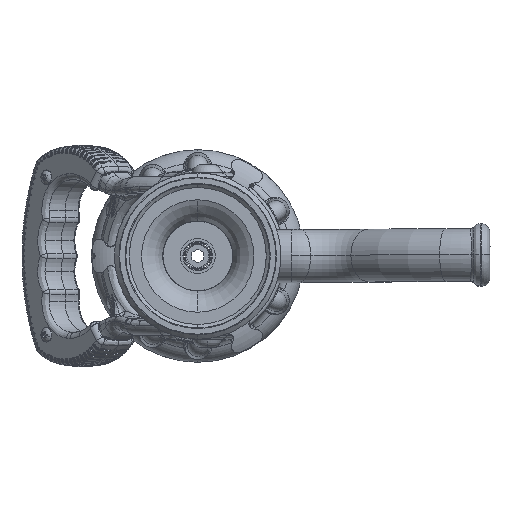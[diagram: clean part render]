
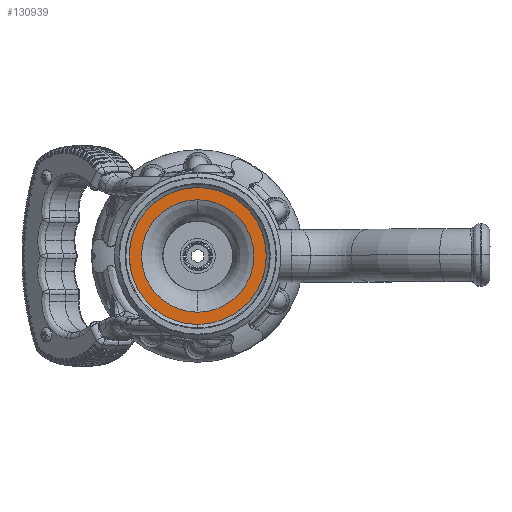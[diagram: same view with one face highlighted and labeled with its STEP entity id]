
A CAD part, left-side view. The second image highlights one B-rep face of the part: STEP entity #130939.
In plain terms, the highlighted planar face has unit normal (-1, 0, 0).
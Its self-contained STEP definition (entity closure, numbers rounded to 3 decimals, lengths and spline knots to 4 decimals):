
#19301 = AXIS2_PLACEMENT_3D ( 'NONE', #104482, #104483, #104485 ) ;
#19303 = AXIS2_PLACEMENT_3D ( 'NONE', #104500, #104502, #104503 ) ;
#19310 = AXIS2_PLACEMENT_3D ( 'NONE', #104559, #104561, #104563 ) ;
#19311 = AXIS2_PLACEMENT_3D ( 'NONE', #104567, #104569, #104571 ) ;
#26433 = FACE_BOUND ( 'NONE', #39855, .T. ) ;
#26483 = FACE_OUTER_BOUND ( 'NONE', #39869, .T. ) ;
#32079 = CARTESIAN_POINT ( 'NONE',  ( -11.37, -1.625, 0. ) ) ;
#32086 = PLANE ( 'NONE',  #48386 ) ;
#32090 = DIRECTION ( 'NONE',  ( -1., 0., 0. ) ) ;
#32092 = DIRECTION ( 'NONE',  ( 0., 0., 1. ) ) ;
#39372 = VERTEX_POINT ( 'NONE', #66721 ) ;
#39402 = VERTEX_POINT ( 'NONE', #66751 ) ;
#39416 = VERTEX_POINT ( 'NONE', #66765 ) ;
#39418 = VERTEX_POINT ( 'NONE', #66767 ) ;
#39855 = EDGE_LOOP ( 'NONE', ( #42310, #42311 ) ) ;
#39869 = EDGE_LOOP ( 'NONE', ( #42308, #42309 ) ) ;
#42308 = ORIENTED_EDGE ( 'NONE', *, *, #62488, .T. ) ;
#42309 = ORIENTED_EDGE ( 'NONE', *, *, #62475, .T. ) ;
#42310 = ORIENTED_EDGE ( 'NONE', *, *, #62478, .F. ) ;
#42311 = ORIENTED_EDGE ( 'NONE', *, *, #62487, .F. ) ;
#48386 = AXIS2_PLACEMENT_3D ( 'NONE', #32079, #32090, #32092 ) ;
#62475 = EDGE_CURVE ( 'NONE', #39416, #39372, #100930, .T. ) ;
#62478 = EDGE_CURVE ( 'NONE', #39402, #39418, #100955, .T. ) ;
#62487 = EDGE_CURVE ( 'NONE', #39418, #39402, #101009, .T. ) ;
#62488 = EDGE_CURVE ( 'NONE', #39372, #39416, #101013, .T. ) ;
#66721 = CARTESIAN_POINT ( 'NONE',  ( -11.37, 0., 1.625 ) ) ;
#66751 = CARTESIAN_POINT ( 'NONE',  ( -11.37, 0., 1.2031 ) ) ;
#66765 = CARTESIAN_POINT ( 'NONE',  ( -11.37, 0., -1.625 ) ) ;
#66767 = CARTESIAN_POINT ( 'NONE',  ( -11.37, 0., -1.2031 ) ) ;
#100930 = CIRCLE ( 'NONE', #19301, 1.625 ) ;
#100955 = CIRCLE ( 'NONE', #19303, 1.2031 ) ;
#101009 = CIRCLE ( 'NONE', #19310, 1.2031 ) ;
#101013 = CIRCLE ( 'NONE', #19311, 1.625 ) ;
#104482 = CARTESIAN_POINT ( 'NONE',  ( -11.37, 0., 0. ) ) ;
#104483 = DIRECTION ( 'NONE',  ( -1., 0., 0. ) ) ;
#104485 = DIRECTION ( 'NONE',  ( 0., 0., 1. ) ) ;
#104500 = CARTESIAN_POINT ( 'NONE',  ( -11.37, 0., 0. ) ) ;
#104502 = DIRECTION ( 'NONE',  ( -1., 0., 0. ) ) ;
#104503 = DIRECTION ( 'NONE',  ( 0., 0., 1. ) ) ;
#104559 = CARTESIAN_POINT ( 'NONE',  ( -11.37, 0., 0. ) ) ;
#104561 = DIRECTION ( 'NONE',  ( -1., 0., 0. ) ) ;
#104563 = DIRECTION ( 'NONE',  ( 0., 0., 1. ) ) ;
#104567 = CARTESIAN_POINT ( 'NONE',  ( -11.37, 0., 0. ) ) ;
#104569 = DIRECTION ( 'NONE',  ( -1., 0., 0. ) ) ;
#104571 = DIRECTION ( 'NONE',  ( 0., 0., 1. ) ) ;
#130939 = ADVANCED_FACE ( 'NONE', ( #26483, #26433 ), #32086, .T. ) ;
